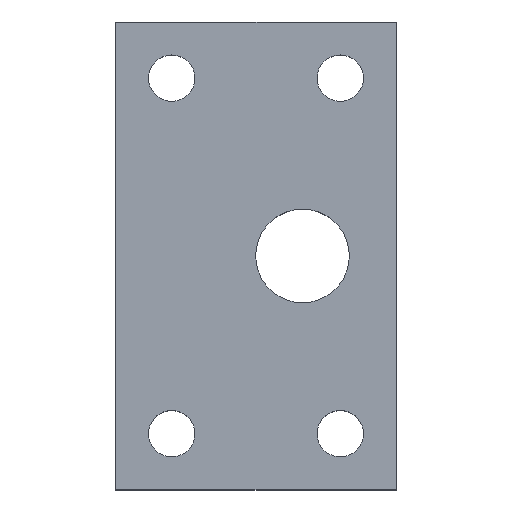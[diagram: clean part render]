
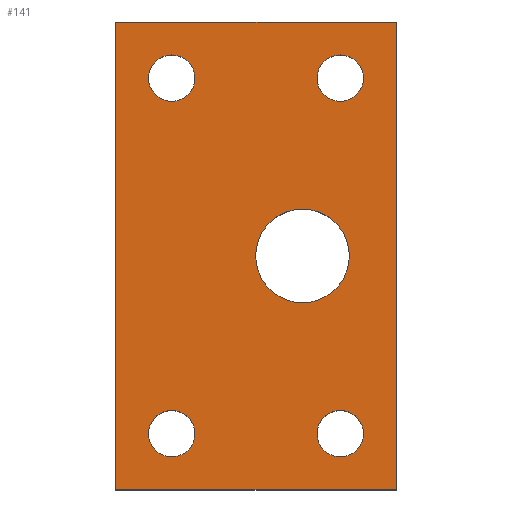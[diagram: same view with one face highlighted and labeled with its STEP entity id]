
A CAD part, top view. The second image highlights one B-rep face of the part: STEP entity #141.
In plain terms, the highlighted planar face has unit normal (0, 0, 1).
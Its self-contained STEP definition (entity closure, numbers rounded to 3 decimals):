
#112=FACE_BOUND('',#170,.T.);
#113=FACE_BOUND('',#171,.T.);
#114=FACE_BOUND('',#172,.T.);
#115=FACE_BOUND('',#173,.T.);
#116=FACE_BOUND('',#174,.T.);
#122=CIRCLE('',#293,12.392);
#124=CIRCLE('',#296,12.392);
#126=CIRCLE('',#299,12.392);
#128=CIRCLE('',#302,12.392);
#130=CIRCLE('',#306,25.);
#141=ADVANCED_FACE('',(#153,#112,#113,#114,#115,#116),#147,.T.);
#147=PLANE('',#309);
#153=FACE_OUTER_BOUND('',#169,.T.);
#169=EDGE_LOOP('',(#207,#208,#209,#210));
#170=EDGE_LOOP('',(#211));
#171=EDGE_LOOP('',(#212));
#172=EDGE_LOOP('',(#213));
#173=EDGE_LOOP('',(#214));
#174=EDGE_LOOP('',(#215));
#207=ORIENTED_EDGE('',*,*,#245,.T.);
#208=ORIENTED_EDGE('',*,*,#249,.T.);
#209=ORIENTED_EDGE('',*,*,#252,.T.);
#210=ORIENTED_EDGE('',*,*,#262,.T.);
#211=ORIENTED_EDGE('',*,*,#259,.F.);
#212=ORIENTED_EDGE('',*,*,#257,.F.);
#213=ORIENTED_EDGE('',*,*,#255,.F.);
#214=ORIENTED_EDGE('',*,*,#253,.F.);
#215=ORIENTED_EDGE('',*,*,#263,.F.);
#227=VERTEX_POINT('',#372);
#228=VERTEX_POINT('',#374);
#230=VERTEX_POINT('',#380);
#232=VERTEX_POINT('',#386);
#233=VERTEX_POINT('',#390);
#235=VERTEX_POINT('',#395);
#237=VERTEX_POINT('',#400);
#239=VERTEX_POINT('',#405);
#241=VERTEX_POINT('',#413);
#245=EDGE_CURVE('',#228,#227,#267,.T.);
#249=EDGE_CURVE('',#227,#230,#271,.T.);
#252=EDGE_CURVE('',#230,#232,#274,.T.);
#253=EDGE_CURVE('',#233,#233,#122,.T.);
#255=EDGE_CURVE('',#235,#235,#124,.T.);
#257=EDGE_CURVE('',#237,#237,#126,.T.);
#259=EDGE_CURVE('',#239,#239,#128,.T.);
#262=EDGE_CURVE('',#232,#228,#276,.T.);
#263=EDGE_CURVE('',#241,#241,#130,.T.);
#267=LINE('',#373,#279);
#271=LINE('',#381,#283);
#274=LINE('',#387,#286);
#276=LINE('',#410,#288);
#279=VECTOR('',#315,1.);
#283=VECTOR('',#321,1.);
#286=VECTOR('',#326,1.);
#288=VECTOR('',#354,1.);
#293=AXIS2_PLACEMENT_3D('',#389,#329,#330);
#296=AXIS2_PLACEMENT_3D('',#394,#335,#336);
#299=AXIS2_PLACEMENT_3D('',#399,#341,#342);
#302=AXIS2_PLACEMENT_3D('',#404,#347,#348);
#306=AXIS2_PLACEMENT_3D('',#412,#357,#358);
#309=AXIS2_PLACEMENT_3D('',#417,#363,#364);
#315=DIRECTION('',(0.,1.,0.));
#321=DIRECTION('',(-1.,0.,0.));
#326=DIRECTION('',(0.,-1.,0.));
#329=DIRECTION('',(0.,0.,1.));
#330=DIRECTION('',(1.,0.,0.));
#335=DIRECTION('',(0.,0.,1.));
#336=DIRECTION('',(1.,0.,0.));
#341=DIRECTION('',(0.,0.,1.));
#342=DIRECTION('',(1.,0.,0.));
#347=DIRECTION('',(0.,0.,1.));
#348=DIRECTION('',(1.,0.,0.));
#354=DIRECTION('',(1.,0.,0.));
#357=DIRECTION('',(0.,0.,1.));
#358=DIRECTION('',(1.,0.,0.));
#363=DIRECTION('',(0.,0.,1.));
#364=DIRECTION('',(1.,0.,0.));
#372=CARTESIAN_POINT('',(75.,125.,30.));
#373=CARTESIAN_POINT('',(75.,-125.,30.));
#374=CARTESIAN_POINT('',(75.,-125.,30.));
#380=CARTESIAN_POINT('',(-75.,125.,30.));
#381=CARTESIAN_POINT('',(75.,125.,30.));
#386=CARTESIAN_POINT('',(-75.,-125.,30.));
#387=CARTESIAN_POINT('',(-75.,125.,30.));
#389=CARTESIAN_POINT('',(45.,-95.,30.));
#390=CARTESIAN_POINT('',(57.392,-95.,30.));
#394=CARTESIAN_POINT('',(-45.,-95.,30.));
#395=CARTESIAN_POINT('',(-32.608,-95.,30.));
#399=CARTESIAN_POINT('',(-45.,95.,30.));
#400=CARTESIAN_POINT('',(-32.608,95.,30.));
#404=CARTESIAN_POINT('',(45.,95.,30.));
#405=CARTESIAN_POINT('',(57.392,95.,30.));
#410=CARTESIAN_POINT('',(-75.,-125.,30.));
#412=CARTESIAN_POINT('',(24.845,0.,30.));
#413=CARTESIAN_POINT('',(49.845,0.,30.));
#417=CARTESIAN_POINT('',(45.,95.,30.));
